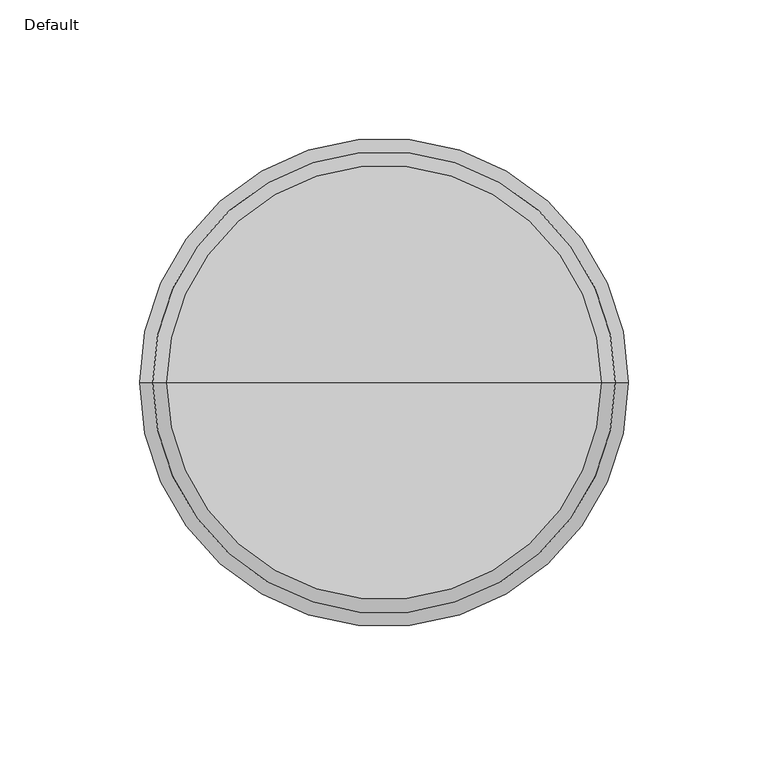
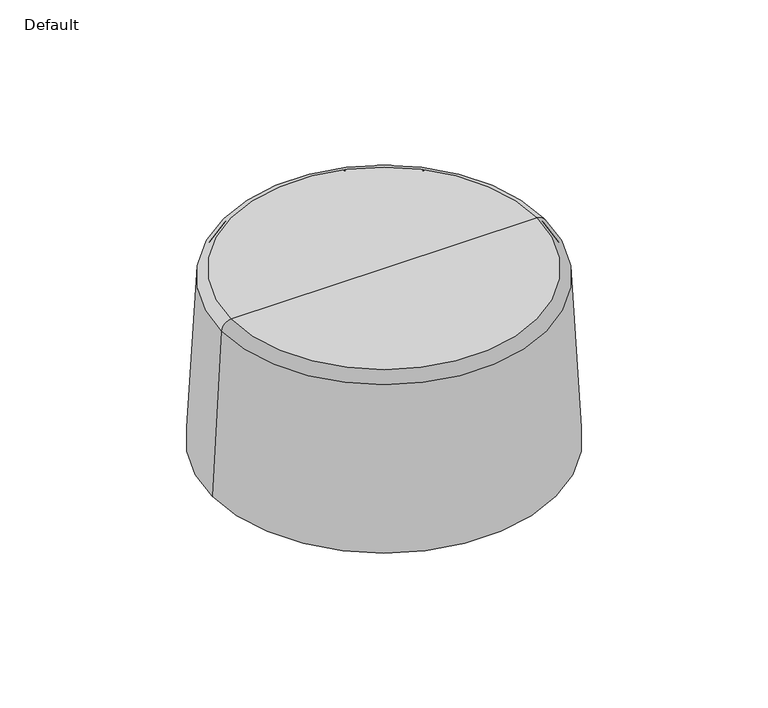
"""IFC4 building model written with IfcOpenShell, lengths in millimetres: valve geometry, NLRS_52_PIA_UN_beluchter studor deksel_wisa : Default."""

from ifc_helpers import new_model, si_unit, point, frame, origin, place, context, project, spatial, polyline, circle_curve, ellipse_curve, trimmed, faceted_brep, source, transform, mapped, element, save
from ifc_brep_helpers import plane_surface, revolved_surface, advanced_brep


def default_71231481(model_context):
    return source(origin(), model_context, "Body", "SolidModel", [
        faceted_brep([(38.75, -67.1169688, 102.0), (77.5, 0.0, 102.0), (38.75, 67.1169688, 102.0), (-38.75, 67.1169688, 102.0), (-77.5, 0.0, 102.0), (-38.75, -67.1169688, 102.0), (38.75, -67.1169688, 18.0), (-38.75, -67.1169688, 18.0), (-77.5, 0.0, 18.0), (-38.75, 67.1169688, 18.0), (38.75, 67.1169688, 18.0), (77.5, 0.0, 18.0), (-33.75, -58.4567148, 18.0), (33.75, -58.4567148, 18.0), (67.5, 0.0, 18.0), (33.75, 58.4567148, 18.0), (-33.75, 58.4567148, 18.0), (-67.5, 0.0, 18.0), (33.75, -58.4567148, 50.0), (-33.75, -58.4567148, 50.0), (-67.5, 0.0, 50.0), (-33.75, 58.4567148, 50.0), (33.75, 58.4567148, 50.0), (67.5, 0.0, 50.0), (-31.5, -54.5596004, 50.0), (31.5, -54.5596004, 50.0), (63.0, 0.0, 50.0), (31.5, 54.5596004, 50.0), (-31.5, 54.5596004, 50.0), (-63.0, 0.0, 50.0), (31.5, -54.5596004, 85.0), (-31.5, -54.5596004, 85.0), (-63.0, 0.0, 85.0), (-31.5, 54.5596004, 85.0), (31.5, 54.5596004, 85.0), (63.0, 0.0, 85.0)], [[[0, 1, 2, 3, 4, 5]], [[6, 7, 8, 9, 10, 11], [12, 13, 14, 15, 16, 17]], [[0, 5, 7, 6]], [[5, 4, 8, 7]], [[4, 3, 9, 8]], [[3, 2, 10, 9]], [[2, 1, 11, 10]], [[1, 0, 6, 11]], [[18, 19, 20, 21, 22, 23], [24, 25, 26, 27, 28, 29]], [[19, 18, 13, 12]], [[20, 19, 12, 17]], [[21, 20, 17, 16]], [[22, 21, 16, 15]], [[23, 22, 15, 14]], [[18, 23, 14, 13]], [[30, 31, 32, 33, 34, 35]], [[31, 30, 25, 24]], [[32, 31, 24, 29]], [[33, 32, 29, 28]], [[34, 33, 28, 27]], [[35, 34, 27, 26]], [[30, 35, 26, 25]]]),
        advanced_brep(
        [(0.0, 0.0, 110.0), (77.7643604, 0.0, 110.0), (-77.7643604, 0.0, 110.0), (-77.7643604, 0.0, 108.5), (77.7643604, 0.0, 108.5), (0.0, 0.0, 108.5), (-81.2592028, 0.0, 105.1899371), (81.2592028, 0.0, 105.1899371), (-85.9977864, 0.0, 18.0), (85.9977864, 0.0, 18.0), (-87.5, 0.0, 18.0), (87.5, 0.0, 18.0), (-82.7569925, 0.0, 105.2713387), (82.7569925, 0.0, 105.2713387)],
        [
            (0, 1),
            (1, 2, circle_curve(frame((0.0, 0.0, 110.0), z_axis=(0.0, 0.0, 1.0), x_axis=(1.0, 0.0, 0.0)), 77.7643604)),
            (2, 0),
            (2, 1, circle_curve(frame((0.0, 0.0, 110.0), z_axis=(0.0, 0.0, 1.0), x_axis=(1.0, 0.0, 0.0)), 77.7643604)),
            (3, 4, circle_curve(frame((0.0, 0.0, 108.5), z_axis=(0.0, 0.0, -1.0), x_axis=(1.0, 0.0, 0.0)), 77.7643604)),
            (4, 5),
            (5, 3),
            (4, 3, circle_curve(frame((0.0, 0.0, 108.5), z_axis=(0.0, 0.0, -1.0), x_axis=(1.0, 0.0, 0.0)), 77.7643604)),
            (6, 7, circle_curve(frame((0.0, 0.0, 105.1899371), z_axis=(0.0, 0.0, -1.0), x_axis=(1.0, 0.0, 0.0)), 81.2592028)),
            (7, 4, circle_curve(frame((77.7643604, 0.0, 105.0), z_axis=(0.0, -1.0, 0.0), x_axis=(1.0, 0.0, 0.0)), 3.5)),
            (3, 6, circle_curve(frame((-77.7643604, 0.0, 105.0), z_axis=(0.0, -1.0, 0.0), x_axis=(-1.0, 0.0, 0.0)), 3.5)),
            (7, 6, circle_curve(frame((0.0, 0.0, 105.1899371), z_axis=(0.0, 0.0, -1.0), x_axis=(1.0, 0.0, 0.0)), 81.2592028)),
            (8, 9, circle_curve(frame((0.0, 0.0, 18.0), z_axis=(0.0, 0.0, -1.0), x_axis=(1.0, 0.0, 0.0)), 85.9977864)),
            (9, 7),
            (6, 8),
            (9, 8, circle_curve(frame((0.0, 0.0, 18.0), z_axis=(0.0, 0.0, -1.0), x_axis=(1.0, 0.0, 0.0)), 85.9977864)),
            (10, 11, circle_curve(frame((0.0, 0.0, 18.0), z_axis=(0.0, 0.0, -1.0), x_axis=(1.0, 0.0, 0.0)), 87.5)),
            (11, 9),
            (8, 10),
            (11, 10, circle_curve(frame((0.0, 0.0, 18.0), z_axis=(0.0, 0.0, -1.0), x_axis=(1.0, 0.0, 0.0)), 87.5)),
            (12, 13, circle_curve(frame((0.0, 0.0, 105.2713387), z_axis=(0.0, 0.0, -1.0), x_axis=(1.0, 0.0, 0.0)), 82.7569925)),
            (13, 11),
            (10, 12),
            (13, 12, circle_curve(frame((0.0, 0.0, 105.2713387), z_axis=(0.0, 0.0, -1.0), x_axis=(1.0, 0.0, 0.0)), 82.7569925)),
            (1, 13, circle_curve(frame((77.7643604, 0.0, 105.0), z_axis=(0.0, 1.0, 0.0), x_axis=(1.0, 0.0, 0.0)), 5.0)),
            (12, 2, circle_curve(frame((-77.7643604, 0.0, 105.0), z_axis=(0.0, 1.0, 0.0), x_axis=(-1.0, 0.0, 0.0)), 5.0)),
        ],
        [
            plane_surface(frame((0.0, 0.0, 110.0), z_axis=(0.0, 0.0, 1.0), x_axis=(1.0, 0.0, 0.0))),
            plane_surface(frame((0.0, 0.0, 108.5), z_axis=(0.0, 0.0, -1.0), x_axis=(1.0, 0.0, 0.0))),
            revolved_surface(trimmed(ellipse_curve(frame((77.7643604, 0.0, 105.0), z_axis=(0.0, 1.0, 0.0), x_axis=(1.0, 0.0, 0.0)), 3.5, 3.5), [point((77.7643604, 0.0, 108.5))], [point((81.2592028, 0.0, 105.1899371))], True, "CARTESIAN"), (0.0, 0.0, 110.0), (0.0, 0.0, 1.0)),
            revolved_surface(polyline([(81.2592028, 0.0, 105.1899371), (85.9977864, 0.0, 18.0)]), (0.0, 0.0, 110.0), (0.0, 0.0, 1.0)),
            plane_surface(frame((0.0, 0.0, 18.0), z_axis=(0.0, 0.0, -1.0), x_axis=(1.0, 0.0, 0.0))),
            revolved_surface(polyline([(87.5, 0.0, 18.0), (82.7569925, 0.0, 105.2713387)]), (0.0, 0.0, 110.0), (0.0, 0.0, 1.0)),
            revolved_surface(trimmed(ellipse_curve(frame((77.7643604, 0.0, 105.0), z_axis=(0.0, -1.0, 0.0), x_axis=(1.0, 0.0, 0.0)), 5.0, 5.0), [point((82.7569925, 0.0, 105.2713387))], [point((77.7643604, 0.0, 110.0))], True, "CARTESIAN"), (0.0, 0.0, 110.0), (0.0, 0.0, 1.0)),
        ],
        [
            (0, [[1, 2, 3]]),
            (0, [[-3, 4, -1]]),
            (1, [[5, 6, 7]]),
            (1, [[8, -7, -6]]),
            (2, [[9, 10, -5, 11]]),
            (2, [[12, -11, -8, -10]]),
            (3, [[13, 14, -9, 15]]),
            (3, [[16, -15, -12, -14]]),
            (4, [[17, 18, -13, 19]]),
            (4, [[20, -19, -16, -18]]),
            (5, [[21, 22, -17, 23]]),
            (5, [[24, -23, -20, -22]]),
            (6, [[-2, 25, -21, 26]]),
            (6, [[-4, -26, -24, -25]]),
        ],
    ),
    ])


if __name__ == "__main__":
    model = new_model("IFC4")
    model_context = context("Model", 3, world=origin())
    ifc_project = project(units=[si_unit("LENGTHUNIT", "METRE", prefix="MILLI")], contexts=[model_context])
    site = spatial("IfcSite", under=ifc_project)
    building = spatial("IfcBuilding", under=site)
    placement = place(None, origin())
    default_shape = default_71231481(model_context)
    element("IfcValve", 1, ObjectType="NLRS_52_PIA_UN_beluchter studor deksel_wisa : Default", at=placement, inside=building, context=model_context, shape_type="MappedRepresentation", body=[
        mapped(default_shape, transform((0.0, 0.0, 0.0), x_axis=(1.0, 0.0, 0.0), y_axis=(0.0, 1.0, 0.0), z_axis=(0.0, 0.0, 1.0))),
    ])
    save(model, "model.ifc")
